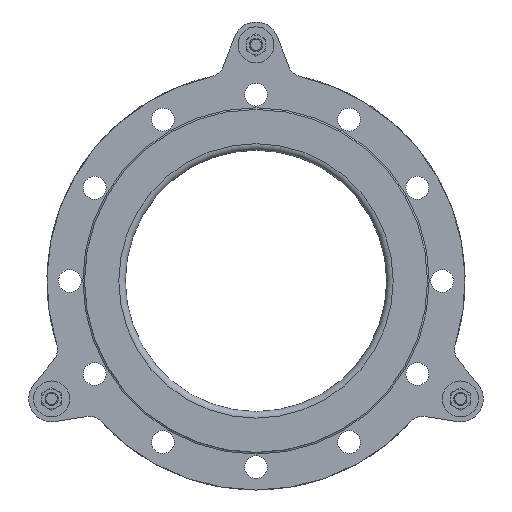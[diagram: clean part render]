
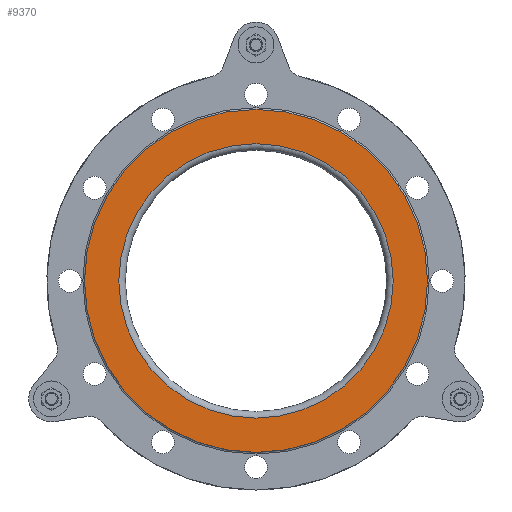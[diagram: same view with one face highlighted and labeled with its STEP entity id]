
A CAD part, left-side view. The second image highlights one B-rep face of the part: STEP entity #9370.
In plain terms, the highlighted planar face has unit normal (-1, 0, 0).
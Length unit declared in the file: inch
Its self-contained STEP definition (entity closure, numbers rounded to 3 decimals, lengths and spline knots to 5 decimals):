
#1376=PLANE('',#10430);
#1611=FACE_BOUND('',#2935,.T.);
#2137=FACE_OUTER_BOUND('',#2934,.T.);
#2934=EDGE_LOOP('',(#7729));
#2935=EDGE_LOOP('',(#7730));
#3533=CIRCLE('',#10429,6.5625);
#3534=CIRCLE('',#10431,5.25);
#4296=VERTEX_POINT('',#16848);
#4297=VERTEX_POINT('',#16851);
#5456=EDGE_CURVE('',#4296,#4296,#3533,.T.);
#5457=EDGE_CURVE('',#4297,#4297,#3534,.T.);
#7729=ORIENTED_EDGE('',*,*,#5456,.T.);
#7730=ORIENTED_EDGE('',*,*,#5457,.F.);
#9370=ADVANCED_FACE('',(#2137,#1611),#1376,.T.);
#10429=AXIS2_PLACEMENT_3D('',#16849,#12750,#12751);
#10430=AXIS2_PLACEMENT_3D('',#16850,#12752,#12753);
#10431=AXIS2_PLACEMENT_3D('',#16852,#12754,#12755);
#12750=DIRECTION('center_axis',(-1.,0.,0.));
#12751=DIRECTION('ref_axis',(0.,-1.,0.));
#12752=DIRECTION('center_axis',(-1.,0.,0.));
#12753=DIRECTION('ref_axis',(0.,-1.,0.));
#12754=DIRECTION('center_axis',(-1.,0.,0.));
#12755=DIRECTION('ref_axis',(0.,-1.,0.));
#16848=CARTESIAN_POINT('',(-3.,0.,6.5625));
#16849=CARTESIAN_POINT('Origin',(-3.,0.,0.));
#16850=CARTESIAN_POINT('Origin',(-3.,0.,5.25));
#16851=CARTESIAN_POINT('',(-3.,0.,5.25));
#16852=CARTESIAN_POINT('Origin',(-3.,0.,0.));
